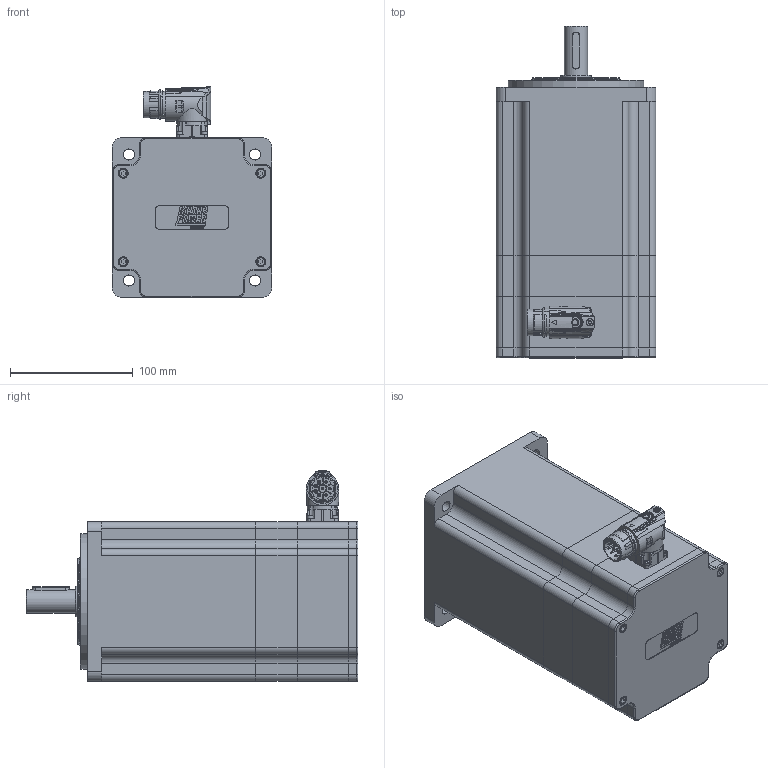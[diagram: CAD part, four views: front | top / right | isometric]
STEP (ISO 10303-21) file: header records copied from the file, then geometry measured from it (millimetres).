
FILE_DESCRIPTION(/* description */ ('Unknown'),/* implementation_level */ '2;1');
FILE_NAME(/* name */ 'TC4-130.5H.XX.X. 3.M1.1.1.C21 Q0C601',/* time_stamp */ '2026-03-05T14:19:11+01:00',/* author */ ('Unknown'),/* organization */ ('Unknown'),/* preprocessor_version */ 'ST-DEVELOPER v19.4',/* originating_system */ 'Solid Edge',/* authorisation */ 'Unknown');
FILE_SCHEMA (('AUTOMOTIVE_DESIGN {1 0 10303 214 3 1 1}'));
Products named in the file (13): Q0C601 5H M1 FRENO VUOTO; 005911000185; 005119002009; Albero TC4 130 5H FRE M1; 003155002232; 005911000432; 003251022006; 005113000500; 003103040233; 005911000252; 007117000456; Corpo TC4-130 5H single cable; Coperchio campana TC4-130 V8
Assembly tree (23 placements, depth 2):
  Q0C601 5H M1 FRENO VUOTO
    005911000185  x4
    005119002009
    Albero TC4 130 5H FRE M1
    003155002232
    005911000432  x6
    003251022006
    005113000500
    003103040233
    005911000252  x4
    007117000456
    Corpo TC4-130 5H single cable
    Coperchio campana TC4-130 V8
Bounding box: 130 x 270 x 171.5 mm (x, y, z)
Volume: 1242507.2 mm3; surface area: 375903.4 mm2
Topology: 25 solids, 25 shells, 1606 faces, 4019 edges, 2578 vertices
Faces by surface type: plane 754, cylinder 404, bspline 182, cone 143, torus 97, sphere 26
Full cylindrical faces by diameter (mm): 1 x4, 1.4 x4, 2 x4, 2.013 x8, 2.459 x2, 2.5 x4, 2.8 x4, 3 x8, 3.2 x1, 3.242 x40, 4 x11, 4.134 x8, 4.5 x15, 4.7 x4, 4.917 x2, 5.5 x5, 5.8 x1, 5.9 x1, 6 x1, 6.4 x1, 6.8 x1, 7 x10, 8 x16, 10 x5, 16 x1, 17.4 x1, 19 x2, 19.9 x1, 20 x3, 21 x1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
Entity records: 53448 total; most frequent: CARTESIAN_POINT 14153, ORIENTED_EDGE 6520, DIRECTION 6294, EDGE_CURVE 3260, AXIS2_PLACEMENT_3D 2346, VERTEX_POINT 2277, FACE_BOUND 1947, EDGE_LOOP 1919
